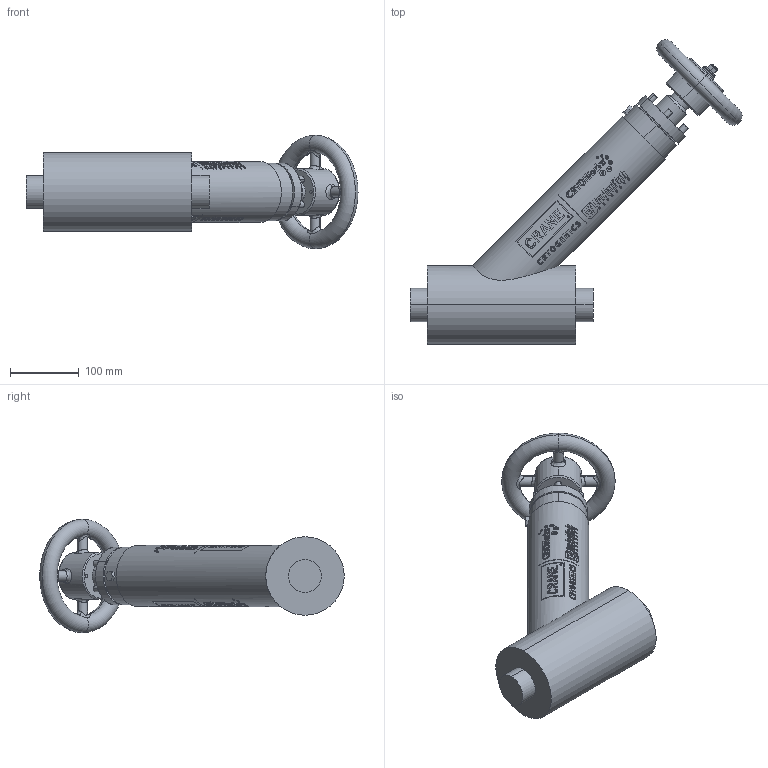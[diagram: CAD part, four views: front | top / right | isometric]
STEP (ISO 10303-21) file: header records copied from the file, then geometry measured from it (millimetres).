
FILE_DESCRIPTION (( 'STEP AP203' ), '1' );
FILE_NAME ('1.5IN Y-PATTERN MANUAL CRANE BELLOWS SEAL VALVE.step', '2025-12-17T20:05:50', ( '' ), ( '' ), 'SwSTEP 2.0', 'SolidWorks 2023', '' );
FILE_SCHEMA (( 'CONFIG_CONTROL_DESIGN' ));
Length unit declared in the file: inch
Products named in the file (1): 1.5IN Y-PATTERN MANUAL CRANE BELLOWS SEAL VALVE
Bounding box: 483.33 x 443.23 x 165.1 mm (x, y, z)
Volume: 4693080.6 mm3; surface area: 277342.7 mm2
Topology: 1 solids, 2 shells, 1283 faces, 3279 edges, 2180 vertices
Faces by surface type: plane 774, cylinder 353, bspline 122, cone 20, torus 14
Full cylindrical faces by diameter (mm): 1.195 x2, 1.309 x2, 1.422 x2, 1.631 x2, 1.842 x2, 2.373 x2, 2.456 x2, 2.727 x2, 2.906 x2, 3.046 x2, 3.207 x2, 3.658 x2, 4.941 x2, 6.104 x2, 7.386 x2, 8.599 x2, 88.9 x1
Entity records: 61322 total; most frequent: CARTESIAN_POINT 32857, ORIENTED_EDGE 6460, DIRECTION 4934, EDGE_CURVE 3230, VERTEX_POINT 2180, AXIS2_PLACEMENT_3D 1660, VECTOR 1614, LINE 1614
